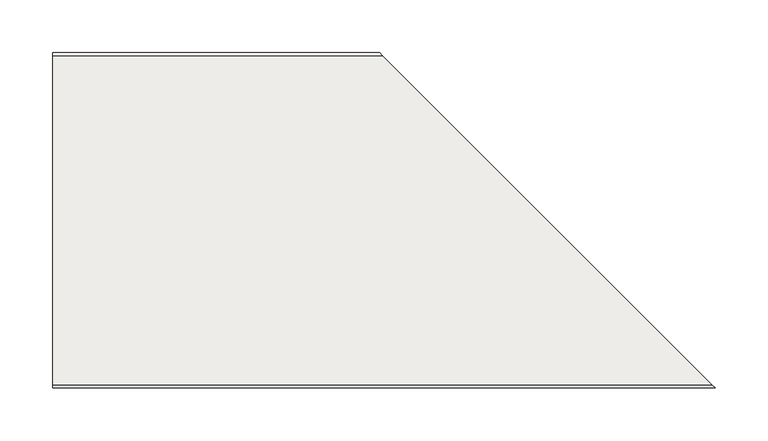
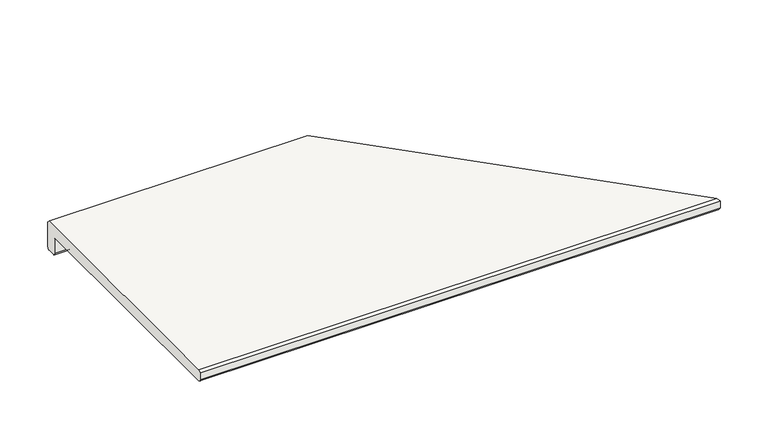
"""IFC4 building model written with IfcOpenShell, lengths in millimetres: slab geometry, ROSA GRES_L62 (corte) : Pieza L62_Serena_Ocra_Anti-Slip."""

from ifc_helpers import new_model, si_unit, frame, origin, place, context, project, spatial, polyline, circle_curve, ellipse_curve, source, transform, mapped, element, save
from ifc_brep_helpers import plane_surface, cylinder_surface, revolved_surface, advanced_brep


def slab_72731314(model_context):
    return source(origin(), model_context, "Body", "AdvancedBrep", [
        advanced_brep(
        [(0.0, 0.0, -20.5), (0.0, -2.5, -23.0), (0.0, -11.5, -23.0), (0.0, -14.0, -20.5), (0.0, -14.0, -2.5), (0.0, -16.5, 0.0), (0.0, -314.5, 0.0), (0.0, -317.0, 2.5), (0.0, -317.0, 11.5), (0.0, -314.5, 14.0), (0.0, -2.5, 14.0), (0.0, 0.0, 11.5), (311.0, -2.5, 14.0), (308.5, 0.0, 11.5), (625.5, -317.0, 11.5), (623.0, -314.5, 14.0), (311.0, -2.5, -23.0), (320.0, -11.5, -23.0), (623.0, -314.5, 0.0), (625.5, -317.0, 2.5), (308.5, 0.0, -20.5), (322.5, -14.0, -20.5), (325.0, -16.5, 0.0), (322.5, -14.0, -2.5)],
        [
            (0, 1, circle_curve(frame((0.0, -2.5, -20.5), z_axis=(-1.0, 0.0, 0.0), x_axis=(0.0, 0.0, -1.0)), 2.5)),
            (1, 2),
            (2, 3, circle_curve(frame((0.0, -11.5, -20.5), z_axis=(-1.0, 0.0, 0.0), x_axis=(0.0, 0.0, -1.0)), 2.5)),
            (3, 4),
            (4, 5, circle_curve(frame((0.0, -16.5, -2.5), z_axis=(1.0, 0.0, 0.0), x_axis=(0.0, 0.0, -1.0)), 2.5)),
            (5, 6),
            (6, 7, circle_curve(frame((0.0, -314.5, 2.5), z_axis=(-1.0, 0.0, 0.0), x_axis=(0.0, 0.0, -1.0)), 2.5)),
            (7, 8),
            (8, 9),
            (9, 10),
            (10, 11),
            (11, 0),
            (10, 12),
            (12, 13),
            (13, 11),
            (8, 14),
            (14, 15),
            (15, 9),
            (1, 16),
            (16, 17),
            (17, 2),
            (6, 18),
            (18, 19, ellipse_curve(frame((623.0, -314.5, 2.5), z_axis=(-0.7071067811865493, -0.7071067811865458, 0.0), x_axis=(-0.7071067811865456, 0.7071067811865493, 0.0)), 3.5355339, 2.5)),
            (19, 7),
            (19, 14),
            (13, 20),
            (20, 0),
            (20, 16, ellipse_curve(frame((311.0, -2.5, -20.5), z_axis=(-0.7071067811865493, -0.7071067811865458, 0.0), x_axis=(-0.7071067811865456, 0.7071067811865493, 0.0)), 3.5355339, 2.5)),
            (17, 21, ellipse_curve(frame((320.0, -11.5, -20.5), z_axis=(-0.7071067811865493, -0.7071067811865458, 0.0), x_axis=(-0.7071067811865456, 0.7071067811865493, 0.0)), 3.5355339, 2.5)),
            (21, 3),
            (15, 12),
            (5, 22),
            (22, 18),
            (4, 23),
            (23, 22, ellipse_curve(frame((325.0, -16.5, -2.5), z_axis=(0.7071067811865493, 0.7071067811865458, 0.0), x_axis=(0.7071067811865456, -0.7071067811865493, 0.0)), 3.5355339, 2.5)),
            (21, 23),
        ],
        [
            plane_surface(frame((0.0, 0.0, 0.0), z_axis=(-1.0, 0.0, 0.0), x_axis=(0.0, 0.0, 1.0))),
            plane_surface(frame((0.0, 0.0, 11.5), z_axis=(0.0, 0.707106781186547, 0.7071067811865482), x_axis=(1.0, 0.0, 0.0))),
            plane_surface(frame((0.0, -314.5, 14.0), z_axis=(0.0, -0.707106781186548, 0.707106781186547), x_axis=(1.0, 0.0, 0.0))),
            plane_surface(frame((0.0, -11.5, -23.0), z_axis=(0.0, 0.0, -1.0), x_axis=(1.0, 0.0, 0.0))),
            cylinder_surface(frame((0.0, -314.5, 2.5), z_axis=(-1.0, 0.0, 0.0), x_axis=(0.0, 0.0, -1.0)), 2.5),
            plane_surface(frame((0.0, -317.0, 11.5), z_axis=(0.0, -1.0, 0.0), x_axis=(1.0, 0.0, 0.0))),
            plane_surface(frame((0.0, 0.0, -20.5), z_axis=(0.0, 1.0, 0.0), x_axis=(1.0, 0.0, 0.0))),
            cylinder_surface(frame((0.0, -2.5, -20.5), z_axis=(-1.0, 0.0, 0.0), x_axis=(0.0, 0.0, -1.0)), 2.5),
            cylinder_surface(frame((0.0, -11.5, -20.5), z_axis=(-1.0, 0.0, 0.0), x_axis=(0.0, 0.0, -1.0)), 2.5),
            plane_surface(frame((0.0, -2.5, 14.0), z_axis=(0.0, 0.0, 1.0), x_axis=(1.0, 0.0, 0.0))),
            plane_surface(frame((0.0, -314.5, 0.0), z_axis=(0.0, 0.0, -1.0), x_axis=(1.0, 0.0, 0.0))),
            revolved_surface(polyline([(327.4999999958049, -16.5, -5.0), (0.0, -16.5, -5.0)]), (0.0, -16.5, -2.5), (1.0, 0.0, 0.0)),
            plane_surface(frame((0.0, -14.0, -2.5), z_axis=(0.0, -1.0, 0.0), x_axis=(1.0, 0.0, 0.0))),
            plane_surface(frame((626.0, -317.5, 86.9871832), z_axis=(0.7071067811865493, 0.7071067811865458, 0.0), x_axis=(0.0, 0.0, -1.0))),
        ],
        [
            (0, [[1, 2, 3, 4, 5, 6, 7, 8, 9, 10, 11, 12]]),
            (1, [[13, 14, 15, -11]]),
            (2, [[16, 17, 18, -9]]),
            (3, [[19, 20, 21, -2]]),
            (4, [[22, 23, 24, -7]]),
            (5, [[-24, 25, -16, -8]]),
            (6, [[-15, 26, 27, -12]]),
            (7, [[-27, 28, -19, -1]]),
            (8, [[-21, 29, 30, -3]]),
            (9, [[-18, 31, -13, -10]]),
            (10, [[32, 33, -22, -6]]),
            (11, [[34, 35, -32, -5]]),
            (12, [[-30, 36, -34, -4]]),
            (13, [[-14, -31, -17, -25, -23, -33, -35, -36, -29, -20, -28, -26]]),
        ],
    ),
    ])


if __name__ == "__main__":
    model = new_model("IFC4")
    model_context = context("Model", 3, world=origin())
    ifc_project = project(units=[si_unit("LENGTHUNIT", "METRE", prefix="MILLI")], contexts=[model_context])
    site = spatial("IfcSite", under=ifc_project)
    building = spatial("IfcBuilding", under=site)
    placement = place(None, origin())
    slab_shape = slab_72731314(model_context)
    element("IfcSlab", 1, ObjectType="ROSA GRES_L62 (corte) : Pieza L62_Serena_Ocra_Anti-Slip", at=placement, inside=building, context=model_context, shape_type="MappedRepresentation", body=[
        mapped(slab_shape, transform((0.0, 0.0, 0.0), x_axis=(1.0, 0.0, 0.0), y_axis=(0.0, 1.0, 0.0), z_axis=(0.0, 0.0, 1.0))),
    ])
    save(model, "model.ifc")
